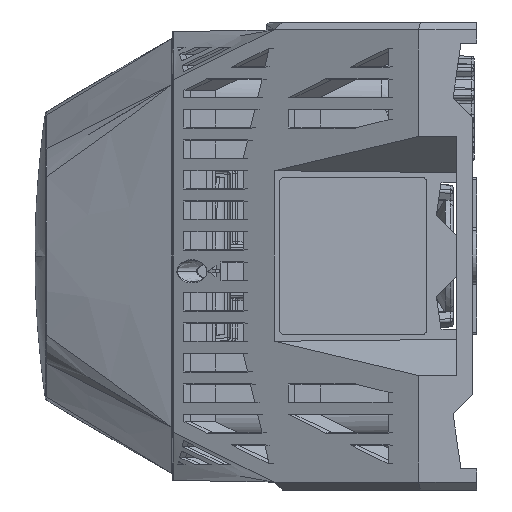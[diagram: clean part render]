
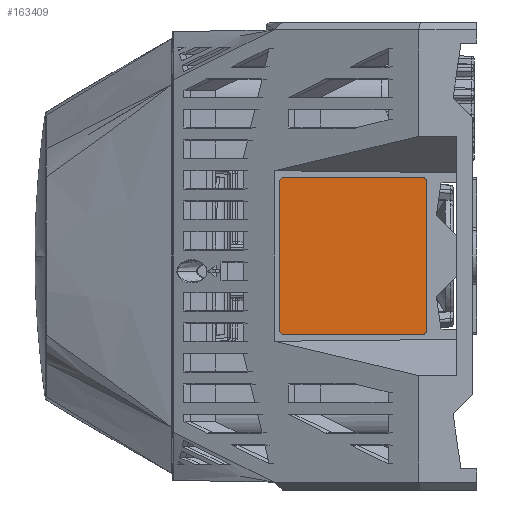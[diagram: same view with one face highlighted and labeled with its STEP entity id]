
A CAD part, left-side view. The second image highlights one B-rep face of the part: STEP entity #163409.
In plain terms, the highlighted planar face has unit normal (-1, 0.018, 0).
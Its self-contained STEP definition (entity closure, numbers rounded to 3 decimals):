
#5546 = ORIENTED_EDGE ( 'NONE', *, *, #111954, .T. ) ;
#10970 = AXIS2_PLACEMENT_3D ( 'NONE', #105849, #92895, #145586 ) ;
#18723 = VECTOR ( 'NONE', #125303, 1000. ) ;
#20260 = DIRECTION ( 'NONE',  ( 0., 0., 1. ) ) ;
#25669 = DIRECTION ( 'NONE',  ( 0., 0., 1. ) ) ;
#26232 = VERTEX_POINT ( 'NONE', #131279 ) ;
#27618 = VERTEX_POINT ( 'NONE', #126987 ) ;
#30707 = CARTESIAN_POINT ( 'NONE',  ( -43.606, 9.504, 15. ) ) ;
#31041 = CARTESIAN_POINT ( 'NONE',  ( -43.606, 9.504, 15. ) ) ;
#33671 = EDGE_CURVE ( 'NONE', #79306, #38372, #90114, .T. ) ;
#37245 = CARTESIAN_POINT ( 'NONE',  ( -43.606, 9.504, -14. ) ) ;
#38372 = VERTEX_POINT ( 'NONE', #137948 ) ;
#39493 = DIRECTION ( 'NONE',  ( -1., 0.017, 0. ) ) ;
#39502 = CARTESIAN_POINT ( 'NONE',  ( -43.117, 37.499, 14. ) ) ;
#48918 = DIRECTION ( 'NONE',  ( -1., 0.017, 0. ) ) ;
#49375 = EDGE_CURVE ( 'NONE', #151542, #163981, #60002, .T. ) ;
#53390 = PLANE ( 'NONE',  #10970 ) ;
#55686 = ORIENTED_EDGE ( 'NONE', *, *, #115412, .T. ) ;
#55969 = CARTESIAN_POINT ( 'NONE',  ( -43.589, 10.503, 15. ) ) ;
#57312 = CARTESIAN_POINT ( 'NONE',  ( -43.606, 9.504, 14. ) ) ;
#57826 = DIRECTION ( 'NONE',  ( 0.017, 1., 0. ) ) ;
#59072 = VECTOR ( 'NONE', #156589, 1000. ) ;
#59122 = CIRCLE ( 'NONE', #81091, 1. ) ;
#60002 = LINE ( 'NONE', #30707, #120259 ) ;
#63886 = CARTESIAN_POINT ( 'NONE',  ( -43.135, 36.499, -15. ) ) ;
#65785 = ORIENTED_EDGE ( 'NONE', *, *, #113365, .T. ) ;
#65912 = CIRCLE ( 'NONE', #156809, 1. ) ;
#68975 = EDGE_LOOP ( 'NONE', ( #125380, #65785, #128767, #111618, #5546, #94214, #112557, #55686 ) ) ;
#72834 = EDGE_CURVE ( 'NONE', #163981, #159123, #166241, .T. ) ;
#73529 = EDGE_CURVE ( 'NONE', #27618, #155059, #59122, .T. ) ;
#73896 = DIRECTION ( 'NONE',  ( 0., 0., 1. ) ) ;
#79306 = VERTEX_POINT ( 'NONE', #63886 ) ;
#79315 = CIRCLE ( 'NONE', #156457, 1. ) ;
#81091 = AXIS2_PLACEMENT_3D ( 'NONE', #94484, #39493, #148082 ) ;
#90114 = LINE ( 'NONE', #103867, #59072 ) ;
#91183 = CARTESIAN_POINT ( 'NONE',  ( -43.589, 10.503, -14. ) ) ;
#92036 = FACE_OUTER_BOUND ( 'NONE', #68975, .T. ) ;
#92895 = DIRECTION ( 'NONE',  ( -1., 0.017, 0. ) ) ;
#94214 = ORIENTED_EDGE ( 'NONE', *, *, #73529, .T. ) ;
#94484 = CARTESIAN_POINT ( 'NONE',  ( -43.135, 36.499, 14. ) ) ;
#103867 = CARTESIAN_POINT ( 'NONE',  ( -43.606, 9.504, -15. ) ) ;
#105849 = CARTESIAN_POINT ( 'NONE',  ( -43.362, 23.501, 0. ) ) ;
#109144 = DIRECTION ( 'NONE',  ( 0., 0., 1. ) ) ;
#109467 = LINE ( 'NONE', #31041, #158470 ) ;
#111618 = ORIENTED_EDGE ( 'NONE', *, *, #72834, .T. ) ;
#111954 = EDGE_CURVE ( 'NONE', #159123, #27618, #109467, .T. ) ;
#112557 = ORIENTED_EDGE ( 'NONE', *, *, #166813, .T. ) ;
#113365 = EDGE_CURVE ( 'NONE', #38372, #151542, #79315, .T. ) ;
#115412 = EDGE_CURVE ( 'NONE', #26232, #79306, #65912, .T. ) ;
#120259 = VECTOR ( 'NONE', #20260, 1000. ) ;
#124756 = AXIS2_PLACEMENT_3D ( 'NONE', #147192, #132473, #109144 ) ;
#125303 = DIRECTION ( 'NONE',  ( 0., 0., -1. ) ) ;
#125380 = ORIENTED_EDGE ( 'NONE', *, *, #33671, .T. ) ;
#126987 = CARTESIAN_POINT ( 'NONE',  ( -43.135, 36.499, 15. ) ) ;
#128767 = ORIENTED_EDGE ( 'NONE', *, *, #49375, .T. ) ;
#131279 = CARTESIAN_POINT ( 'NONE',  ( -43.117, 37.499, -14. ) ) ;
#132473 = DIRECTION ( 'NONE',  ( -1., 0.017, 0. ) ) ;
#137948 = CARTESIAN_POINT ( 'NONE',  ( -43.589, 10.503, -15. ) ) ;
#138578 = CARTESIAN_POINT ( 'NONE',  ( -43.135, 36.499, -14. ) ) ;
#145586 = DIRECTION ( 'NONE',  ( 0., 0., 1. ) ) ;
#147192 = CARTESIAN_POINT ( 'NONE',  ( -43.589, 10.503, 14. ) ) ;
#148082 = DIRECTION ( 'NONE',  ( 0., 0., 1. ) ) ;
#151542 = VERTEX_POINT ( 'NONE', #37245 ) ;
#155059 = VERTEX_POINT ( 'NONE', #39502 ) ;
#155953 = DIRECTION ( 'NONE',  ( -1., 0.017, 0. ) ) ;
#156457 = AXIS2_PLACEMENT_3D ( 'NONE', #91183, #155953, #25669 ) ;
#156589 = DIRECTION ( 'NONE',  ( -0.017, -1., 0. ) ) ;
#156809 = AXIS2_PLACEMENT_3D ( 'NONE', #138578, #48918, #73896 ) ;
#158470 = VECTOR ( 'NONE', #57826, 1000. ) ;
#159123 = VERTEX_POINT ( 'NONE', #55969 ) ;
#163398 = CARTESIAN_POINT ( 'NONE',  ( -43.117, 37.499, 15. ) ) ;
#163409 = ADVANCED_FACE ( 'NONE', ( #92036 ), #53390, .T. ) ;
#163981 = VERTEX_POINT ( 'NONE', #57312 ) ;
#166241 = CIRCLE ( 'NONE', #124756, 1. ) ;
#166813 = EDGE_CURVE ( 'NONE', #155059, #26232, #166815, .T. ) ;
#166815 = LINE ( 'NONE', #163398, #18723 ) ;
